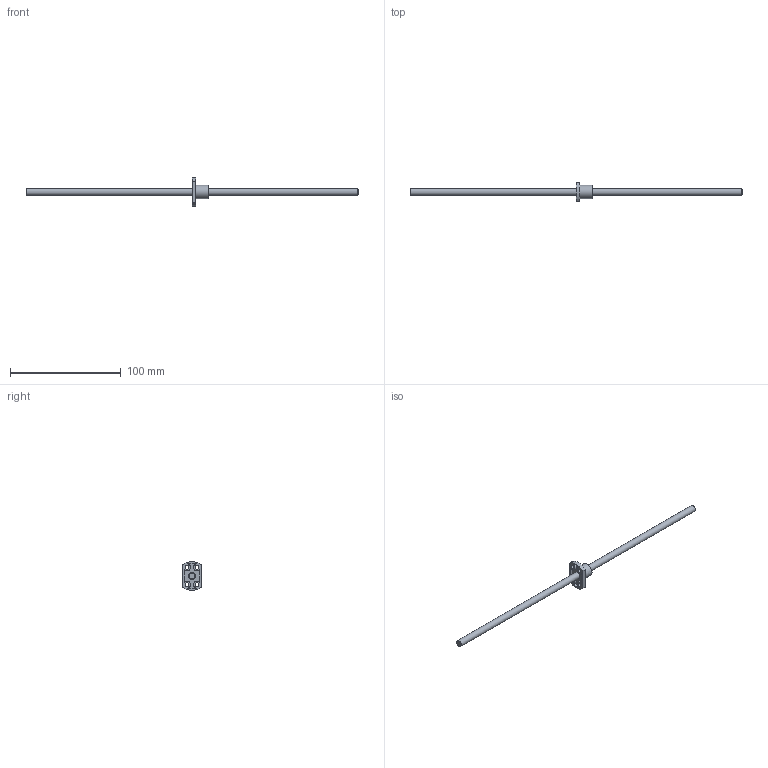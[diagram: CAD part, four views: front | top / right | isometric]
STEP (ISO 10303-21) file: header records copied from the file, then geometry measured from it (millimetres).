
FILE_DESCRIPTION((''),'2;1');
FILE_NAME('D:\製品 (図面)\カタログ用3D\ネジ関連\STEP形式\MSK\MSK06.stp','2010-06-02T14:37:24',('Tsuchiya'),(''),'Autodesk Inventor 10','Autodesk Inventor 10','');
FILE_SCHEMA(('AUTOMOTIVE_DESIGN { 1 0 10303 214 1 1 1 1 }'));
Length unit declared in the file: millimetre
Products named in the file (3): MSK06; MSK061; MSK062
Assembly tree (2 placements, depth 2):
  MSK06
    MSK061
    MSK062
Bounding box: 300 x 17 x 26 mm (x, y, z)
Volume: 10293.3 mm3; surface area: 7616.8 mm2
Topology: 2 solids, 2 shells, 31 faces, 78 edges, 53 vertices
Faces by surface type: cylinder 15, plane 14, cone 2
Full cylindrical faces by diameter (mm): 3.4 x4, 6 x2, 12 x1
Entity records: 962 total; most frequent: DIRECTION 176, CARTESIAN_POINT 148, ORIENTED_EDGE 128, AXIS2_PLACEMENT_3D 76, EDGE_CURVE 64, EDGE_LOOP 52, VERTEX_POINT 48, CIRCLE 32
